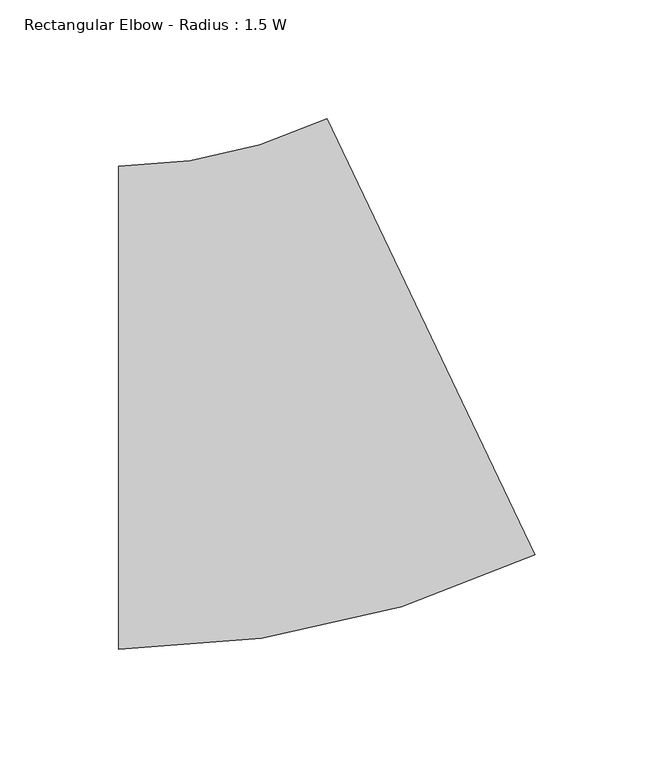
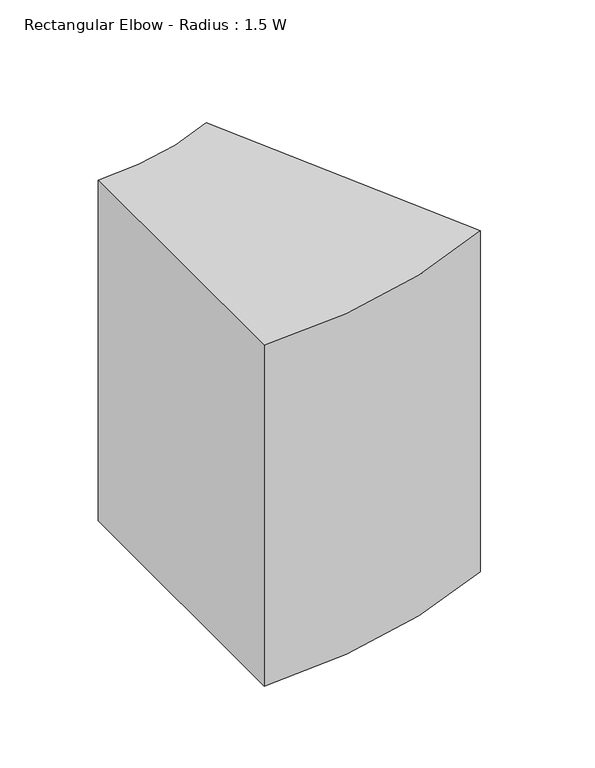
"""IFC4 building model written with IfcOpenShell, lengths in millimetres: duct fitting geometry, Rectangular Elbow - Radius : 1.5 W."""

from ifc_helpers import new_model, si_unit, point, frame, frame_2d, origin, place, context, project, spatial, polyline, circle_curve, trimmed, segment, composite_curve, outline, extrude, source, transform, mapped, element, save


def rectangular_elbow_radius_1_5_w_1e05c444(model_context):
    return source(origin(), model_context, "Body", "SweptSolid", [
        extrude(outline(composite_curve([segment(trimmed(circle_curve(frame_2d((-69.0522412, 304.8)), 406.4), [point((106.0975732, -61.9199238))], [point((-69.0522412, -101.6))], False, "CARTESIAN"), True, "CONTINUOUS"), segment(polyline([(-69.0522412, -101.6), (-69.0522412, 101.6)]), True, "CONTINUOUS"), segment(trimmed(circle_curve(frame_2d((-69.0522412, 304.8)), 203.2), [point((-69.0522412, 101.6))], [point((18.522666, 121.4400381))], True, "CARTESIAN"), True, "CONTINUOUS"), segment(polyline([(18.522666, 121.4400381), (106.0975732, -61.9199238)]), True, "CONTINUOUS")], self_intersect=False)), frame((0.0, 0.0, -127.0), z_axis=(0.0, 0.0, 1.0), x_axis=(1.0, 0.0, 0.0)), (0.0, 0.0, 1.0), 254.0),
    ])


if __name__ == "__main__":
    model = new_model("IFC4")
    model_context = context("Model", 3, world=origin())
    ifc_project = project(units=[si_unit("LENGTHUNIT", "METRE", prefix="MILLI")], contexts=[model_context])
    site = spatial("IfcSite", under=ifc_project)
    building = spatial("IfcBuilding", under=site)
    placement = place(None, origin())
    rectangular_elbow_radius_1_5_w_shape = rectangular_elbow_radius_1_5_w_1e05c444(model_context)
    element("IfcDuctFitting", 1, ObjectType="Rectangular Elbow - Radius : 1.5 W", at=placement, inside=building, context=model_context, shape_type="MappedRepresentation", body=[
        mapped(rectangular_elbow_radius_1_5_w_shape, transform((0.0, 0.0, 0.0), x_axis=(1.0, 0.0, 0.0), y_axis=(0.0, 1.0, 0.0), z_axis=(0.0, 0.0, 1.0))),
    ])
    save(model, "model.ifc")
